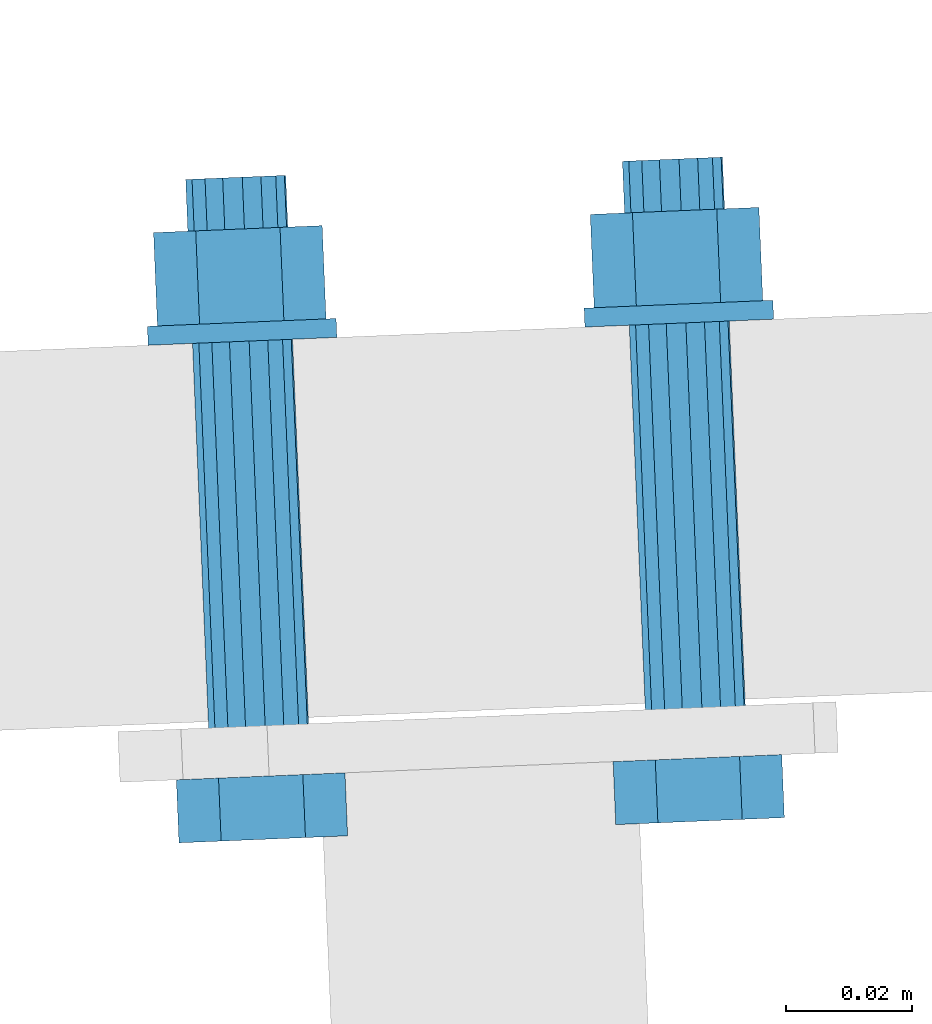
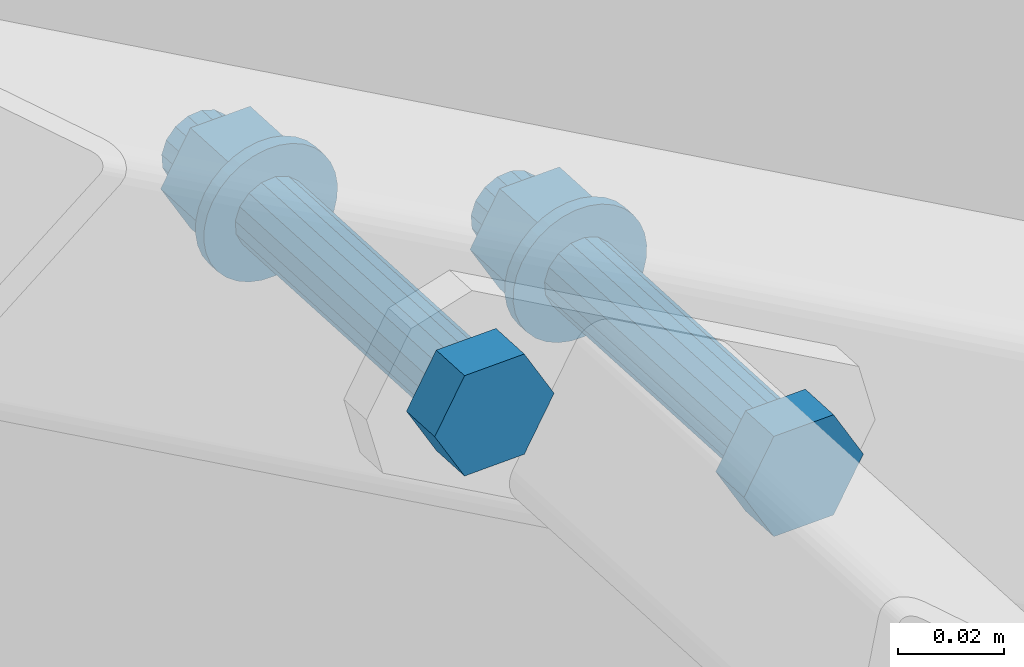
# One storey, part 132 of 288: 1 mechanical fastener.
"""IFC2X3 building model written with IfcOpenShell, lengths in millimetres."""

from ifc_helpers import new_model, entity, si_unit, converted_unit, origin_with_axes, place, context, project, spatial, faceted_brep, element, save


model = new_model("IFC2X3")

# Units and contexts
model_context = context("Model", 3, precision=1e-09, world=origin_with_axes())
ifc_project = project(units=[si_unit("LENGTHUNIT", "METRE", prefix="MILLI"), si_unit("AREAUNIT", "SQUARE_METRE"), si_unit("VOLUMEUNIT", "CUBIC_METRE"), converted_unit("PLANEANGLEUNIT", "DEGREE", entity("IfcPlaneAngleMeasure", 0.01745329), si_unit("PLANEANGLEUNIT", "RADIAN"), dimensions=[0, 0, 0, 0, 0, 0, 0])], contexts=[model_context])

# Site, building, storey
site_placement = place(None, origin_with_axes())
site = spatial("IfcSite", under=ifc_project, at=site_placement, Name="Remont ?wietlik?w nad MC w NCPP w Opolu", CompositionType="ELEMENT")
building_placement = place(site_placement, origin_with_axes())
building = spatial("IfcBuilding", under=site, at=building_placement, Name="Konstrukcja 1", CompositionType="ELEMENT")
storey_placement = place(building_placement, origin_with_axes())
storey = spatial("IfcBuildingStorey", under=building, at=storey_placement, Name="Default Storey", CompositionType="ELEMENT", Elevation=0.0)

# Mechanical fastener
mechanical_fastener_placement = place(None, origin_with_axes())
element("IfcMechanicalFastener", 1, at=mechanical_fastener_placement, inside=storey, ObjectType="-", NominalDiameter=16.0, NominalLength=95.0, context=model_context, shape_type="Brep", body=[
    faceted_brep([(675.145065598, 10264.010936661, 553.794047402), (674.728348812, 10274.002250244, 553.794046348), (681.410043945, 10274.280928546, 542.210958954), (681.82676073, 10264.289614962, 542.210960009), (694.773425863, 10274.838287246, 542.210963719), (695.190142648, 10264.846973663, 542.210964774), (701.455112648, 10275.116967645, 553.794055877), (701.871829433, 10265.125654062, 553.794056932), (694.773417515, 10274.838289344, 565.377143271), (695.1901343, 10264.84697576, 565.377144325), (681.410035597, 10274.280930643, 565.377138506), (681.826752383, 10264.28961706, 565.37713956)], [[[0, 1, 2, 3]], [[3, 2, 4, 5]], [[5, 4, 6, 7]], [[7, 6, 8, 9]], [[9, 8, 10, 11]], [[11, 10, 1, 0]], [[3, 5, 7, 9, 11, 0]], [[2, 1, 10, 8, 6, 4]]]),
    faceted_brep([(744.366931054, 10266.898031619, 513.794072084), (743.950214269, 10276.889345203, 513.79407103), (750.631909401, 10277.168023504, 502.210983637), (751.048626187, 10267.176709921, 502.210984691), (763.995291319, 10277.725382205, 502.210988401), (764.412008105, 10267.734068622, 502.210989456), (770.676978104, 10278.004062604, 513.79408056), (771.09369489, 10268.012749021, 513.794081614), (763.995282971, 10277.725384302, 525.377167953), (764.411999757, 10267.734070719, 525.377169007), (750.631901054, 10277.168025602, 525.377163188), (751.048617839, 10267.176712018, 525.377164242)], [[[0, 1, 2, 3]], [[3, 2, 4, 5]], [[5, 4, 6, 7]], [[7, 6, 8, 9]], [[9, 8, 10, 11]], [[11, 10, 1, 0]], [[3, 5, 7, 9, 11, 0]], [[2, 1, 10, 8, 6, 4]]]),
    faceted_brep([(692.138560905, 10343.788635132, 549.794046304), (695.013916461, 10274.848337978, 549.794053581), (692.95759327, 10274.762572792, 547.447226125), (690.082237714, 10343.702869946, 547.447218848), (690.160486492, 10274.645911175, 546.06664524), (687.285130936, 10343.586208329, 546.066637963), (687.048430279, 10274.5161138, 545.86249185), (684.173074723, 10343.456410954, 545.862484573), (684.095206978, 10274.392941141, 546.865846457), (681.219851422, 10343.333238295, 546.86583918), (681.750418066, 10274.295145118, 548.923957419), (678.87506251, 10343.235442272, 548.923950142), (680.371036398, 10274.237614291, 551.723495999), (677.495680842, 10343.177911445, 551.723488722), (680.16706033, 10274.229107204, 554.838257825), (677.291704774, 10343.169404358, 554.838250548), (681.169543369, 10274.270918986, 557.794048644), (678.294187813, 10343.21121614, 557.794041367), (683.22586656, 10274.356684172, 560.1408761), (680.350511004, 10343.296981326, 560.140868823), (686.022973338, 10274.473345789, 561.521456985), (683.147617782, 10343.413642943, 561.521449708), (689.135029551, 10274.603143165, 561.725610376), (686.259673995, 10343.543440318, 561.725603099), (692.088252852, 10274.726315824, 560.722255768), (689.212897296, 10343.666612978, 560.722248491), (694.433041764, 10274.824111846, 558.664144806), (691.557686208, 10343.764409, 558.664137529), (695.812423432, 10274.881642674, 555.864606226), (692.937067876, 10343.821939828, 555.864598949), (696.0163995, 10274.89014976, 552.7498444), (693.141043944, 10343.830446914, 552.749837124)], [[[0, 1, 2, 3]], [[3, 2, 4, 5]], [[5, 4, 6, 7]], [[7, 6, 8, 9]], [[9, 8, 10, 11]], [[11, 10, 12, 13]], [[13, 12, 14, 15]], [[15, 14, 16, 17]], [[17, 16, 18, 19]], [[19, 18, 20, 21]], [[21, 20, 22, 23]], [[23, 22, 24, 25]], [[25, 24, 26, 27]], [[27, 26, 28, 29]], [[29, 28, 30, 31]], [[31, 30, 1, 0]], [[2, 1, 30, 28, 26, 24, 22, 20, 18, 16, 14, 12, 10, 8, 6, 4]], [[31, 0, 3, 5, 7, 9, 11, 13, 15, 17, 19, 21, 23, 25, 27, 29]]]),
    faceted_brep([(761.360426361, 10346.675730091, 509.794070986), (764.235781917, 10277.735432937, 509.794078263), (762.179458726, 10277.649667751, 507.447250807), (759.30410317, 10346.589964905, 507.44724353), (759.382351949, 10277.533006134, 506.066669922), (756.506996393, 10346.473303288, 506.066662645), (756.270295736, 10277.403208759, 505.862516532), (753.39494018, 10346.343505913, 505.862509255), (753.317072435, 10277.2800361, 506.865871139), (750.441716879, 10346.220333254, 506.865863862), (750.972283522, 10277.182240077, 508.923982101), (748.096927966, 10346.122537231, 508.923974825), (749.592901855, 10277.124709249, 511.723520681), (746.717546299, 10346.065006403, 511.723513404), (749.388925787, 10277.116202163, 514.838282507), (746.513570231, 10346.056499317, 514.83827523), (750.391408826, 10277.158013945, 517.794073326), (747.51605327, 10346.098311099, 517.794066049), (752.447732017, 10277.243779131, 520.140900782), (749.572376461, 10346.184076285, 520.140893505), (755.244838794, 10277.360440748, 521.521481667), (752.369483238, 10346.300737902, 521.52147439), (758.356895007, 10277.490238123, 521.725635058), (755.481539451, 10346.430535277, 521.725627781), (761.310118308, 10277.613410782, 520.72228045), (758.434762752, 10346.553707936, 520.722273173), (763.654907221, 10277.711206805, 518.664169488), (760.779551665, 10346.651503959, 518.664162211), (765.034288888, 10277.768737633, 515.864630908), (762.158933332, 10346.709034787, 515.864623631), (765.238264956, 10277.777244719, 512.749869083), (762.3629094, 10346.717541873, 512.749861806)], [[[0, 1, 2, 3]], [[3, 2, 4, 5]], [[5, 4, 6, 7]], [[7, 6, 8, 9]], [[9, 8, 10, 11]], [[11, 10, 12, 13]], [[13, 12, 14, 15]], [[15, 14, 16, 17]], [[17, 16, 18, 19]], [[19, 18, 20, 21]], [[21, 20, 22, 23]], [[23, 22, 24, 25]], [[25, 24, 26, 27]], [[27, 26, 28, 29]], [[29, 28, 30, 31]], [[31, 30, 1, 0]], [[2, 1, 30, 28, 26, 24, 22, 20, 18, 16, 14, 12, 10, 8, 6, 4]], [[31, 0, 3, 5, 7, 9, 11, 13, 15, 17, 19, 21, 23, 25, 27, 29]]]),
    faceted_brep([(698.070459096, 10347.038650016, 546.294048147), (698.195474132, 10344.041255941, 546.294048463), (696.484178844, 10343.969881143, 543.903860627), (696.359163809, 10346.967275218, 543.90386031), (694.339868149, 10343.880446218, 541.893746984), (694.214853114, 10346.877840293, 541.893746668), (691.844946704, 10343.7763881, 540.340955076), (691.719931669, 10346.773782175, 540.34095476), (689.095292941, 10343.661705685, 539.305157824), (688.970277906, 10346.65909976, 539.305157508), (686.196574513, 10343.540806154, 538.826160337), (686.071559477, 10346.538200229, 538.82616002), (683.260187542, 10343.418335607, 538.922370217), (683.135172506, 10346.415729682, 538.922369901), (680.398975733, 10343.299000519, 539.590090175), (680.273960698, 10346.296394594, 539.590089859), (677.722893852, 10343.187386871, 540.803660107), (677.597878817, 10346.184780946, 540.803659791), (675.334782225, 10343.087783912, 542.5164432), (675.209767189, 10346.085177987, 542.516442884), (673.326414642, 10343.004019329, 544.662618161), (673.201399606, 10346.001413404, 544.662617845), (671.774971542, 10342.939312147, 547.15970869), (671.649956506, 10345.936706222, 547.159708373), (670.740074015, 10342.896149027, 549.911752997), (670.615058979, 10345.893543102, 549.911752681), (670.261492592, 10342.876188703, 552.812991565), (670.136477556, 10345.873582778, 552.812991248), (670.357618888, 10342.88019824, 555.751931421), (670.232603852, 10345.877592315, 555.751931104), (671.024758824, 10342.908023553, 558.615630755), (670.899743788, 10345.905417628, 558.615630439), (672.237274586, 10342.958595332, 561.294039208), (672.11225955, 10345.955989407, 561.294038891), (673.948569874, 10343.02997013, 563.684227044), (673.823554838, 10346.027364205, 563.684226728), (676.092880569, 10343.119405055, 565.694340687), (675.967865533, 10346.11679913, 565.69434037), (678.587802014, 10343.223463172, 567.247132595), (678.462786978, 10346.220857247, 567.247132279), (681.337455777, 10343.338145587, 568.282929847), (681.212440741, 10346.335539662, 568.28292953), (684.236174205, 10343.459045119, 568.761927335), (684.11115917, 10346.456439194, 568.761927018), (687.172561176, 10343.581515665, 568.665717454), (687.04754614, 10346.57890974, 568.665717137), (690.033772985, 10343.700850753, 567.997997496), (689.908757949, 10346.698244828, 567.997997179), (692.709854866, 10343.812464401, 566.784427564), (692.58483983, 10346.809858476, 566.784427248), (695.097966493, 10343.91206736, 565.071644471), (694.972951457, 10346.909461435, 565.071644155), (697.106334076, 10343.995831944, 562.92546951), (696.981319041, 10346.993226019, 562.925469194), (698.657777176, 10344.060539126, 560.428378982), (698.53276214, 10347.057933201, 560.428378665), (699.692674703, 10344.103702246, 557.676334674), (699.567659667, 10347.101096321, 557.676334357), (700.171256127, 10344.123662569, 554.775096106), (700.046241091, 10347.121056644, 554.77509579), (700.07512983, 10344.119653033, 551.83615625), (699.950114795, 10347.117047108, 551.836155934), (699.407989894, 10344.091827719, 548.972456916), (699.282974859, 10347.089221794, 548.9724566)], [[[0, 1, 2, 3]], [[3, 2, 4, 5]], [[5, 4, 6, 7]], [[7, 6, 8, 9]], [[9, 8, 10, 11]], [[11, 10, 12, 13]], [[13, 12, 14, 15]], [[15, 14, 16, 17]], [[17, 16, 18, 19]], [[19, 18, 20, 21]], [[21, 20, 22, 23]], [[23, 22, 24, 25]], [[25, 24, 26, 27]], [[27, 26, 28, 29]], [[29, 28, 30, 31]], [[31, 30, 32, 33]], [[33, 32, 34, 35]], [[35, 34, 36, 37]], [[37, 36, 38, 39]], [[39, 38, 40, 41]], [[41, 40, 42, 43]], [[43, 42, 44, 45]], [[45, 44, 46, 47]], [[47, 46, 48, 49]], [[49, 48, 50, 51]], [[51, 50, 52, 53]], [[53, 52, 54, 55]], [[55, 54, 56, 57]], [[57, 56, 58, 59]], [[59, 58, 60, 61]], [[61, 60, 62, 63]], [[63, 62, 1, 0]], [[2, 1, 62, 60, 58, 56, 54, 52, 50, 48, 46, 44, 42, 40, 38, 36, 34, 32, 30, 28, 26, 24, 22, 20, 18, 16, 14, 12, 10, 8, 6, 4]], [[63, 0, 3, 5, 7, 9, 11, 13, 15, 17, 19, 21, 23, 25, 27, 29, 31, 33, 35, 37, 39, 41, 43, 45, 47, 49, 51, 53, 55, 57, 59, 61]]]),
    faceted_brep([(767.292324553, 10349.925744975, 506.294072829), (767.417339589, 10346.9283509, 506.294073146), (765.706044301, 10346.856976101, 503.903885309), (765.581029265, 10349.854370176, 503.903884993), (763.561733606, 10346.767541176, 501.893771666), (763.43671857, 10349.764935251, 501.89377135), (761.066812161, 10346.663483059, 500.340979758), (760.941797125, 10349.660877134, 500.340979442), (758.317158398, 10346.548800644, 499.305182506), (758.192143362, 10349.546194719, 499.30518219), (755.418439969, 10346.427901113, 498.826185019), (755.293424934, 10349.425295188, 498.826184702), (752.482052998, 10346.305430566, 498.9223949), (752.357037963, 10349.302824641, 498.922394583), (749.62084119, 10346.186095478, 499.590114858), (749.495826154, 10349.183489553, 499.590114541), (746.944759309, 10346.07448183, 500.803684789), (746.819744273, 10349.071875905, 500.803684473), (744.556647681, 10345.974878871, 502.516467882), (744.431632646, 10348.972272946, 502.516467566), (742.548280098, 10345.891114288, 504.662642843), (742.423265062, 10348.888508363, 504.662642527), (740.996836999, 10345.826407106, 507.159733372), (740.871821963, 10348.823801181, 507.159733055), (739.961939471, 10345.783243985, 509.911777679), (739.836924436, 10348.78063806, 509.911777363), (739.483358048, 10345.763283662, 512.813016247), (739.358343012, 10348.760677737, 512.81301593), (739.579484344, 10345.767293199, 515.751956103), (739.454469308, 10348.764687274, 515.751955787), (740.24662428, 10345.795118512, 518.615655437), (740.121609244, 10348.792512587, 518.615655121), (741.459140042, 10345.84569029, 521.29406389), (741.334125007, 10348.843084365, 521.294063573), (743.17043533, 10345.917065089, 523.684251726), (743.045420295, 10348.914459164, 523.68425141), (745.314746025, 10346.006500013, 525.694365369), (745.18973099, 10349.003894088, 525.694365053), (747.80966747, 10346.110558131, 527.247157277), (747.684652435, 10349.107952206, 527.247156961), (750.559321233, 10346.225240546, 528.282954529), (750.434306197, 10349.222634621, 528.282954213), (753.458039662, 10346.346140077, 528.761952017), (753.333024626, 10349.343534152, 528.7619517), (756.394426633, 10346.468610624, 528.665742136), (756.269411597, 10349.466004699, 528.665741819), (759.255638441, 10346.587945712, 527.998022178), (759.130623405, 10349.585339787, 527.998021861), (761.931720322, 10346.69955936, 526.784452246), (761.806705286, 10349.696953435, 526.78445193), (764.319831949, 10346.799162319, 525.071669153), (764.194816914, 10349.796556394, 525.071668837), (766.328199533, 10346.882926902, 522.925494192), (766.203184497, 10349.880320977, 522.925493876), (767.879642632, 10346.947634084, 520.428403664), (767.754627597, 10349.945028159, 520.428403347), (768.91454016, 10346.990797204, 517.676359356), (768.789525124, 10349.988191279, 517.67635904), (769.393121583, 10347.010757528, 514.775120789), (769.268106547, 10350.008151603, 514.775120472), (769.296995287, 10347.006747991, 511.836180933), (769.171980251, 10350.004142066, 511.836180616), (768.629855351, 10346.978922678, 508.972481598), (768.504840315, 10349.976316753, 508.972481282)], [[[0, 1, 2, 3]], [[3, 2, 4, 5]], [[5, 4, 6, 7]], [[7, 6, 8, 9]], [[9, 8, 10, 11]], [[11, 10, 12, 13]], [[13, 12, 14, 15]], [[15, 14, 16, 17]], [[17, 16, 18, 19]], [[19, 18, 20, 21]], [[21, 20, 22, 23]], [[23, 22, 24, 25]], [[25, 24, 26, 27]], [[27, 26, 28, 29]], [[29, 28, 30, 31]], [[31, 30, 32, 33]], [[33, 32, 34, 35]], [[35, 34, 36, 37]], [[37, 36, 38, 39]], [[39, 38, 40, 41]], [[41, 40, 42, 43]], [[43, 42, 44, 45]], [[45, 44, 46, 47]], [[47, 46, 48, 49]], [[49, 48, 50, 51]], [[51, 50, 52, 53]], [[53, 52, 54, 55]], [[55, 54, 56, 57]], [[57, 56, 58, 59]], [[59, 58, 60, 61]], [[61, 60, 62, 63]], [[63, 62, 1, 0]], [[2, 1, 62, 60, 58, 56, 54, 52, 50, 48, 46, 44, 42, 40, 38, 36, 34, 32, 30, 28, 26, 24, 22, 20, 18, 16, 14, 12, 10, 8, 6, 4]], [[63, 0, 3, 5, 7, 9, 11, 13, 15, 17, 19, 21, 23, 25, 27, 29, 31, 33, 35, 37, 39, 41, 43, 45, 47, 49, 51, 53, 55, 57, 59, 61]]]),
    faceted_brep([(671.727977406, 10345.939961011, 553.794038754), (671.111236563, 10360.727105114, 553.794037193), (677.792931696, 10361.005783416, 542.2109498), (678.409672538, 10346.218639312, 542.210951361), (691.156313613, 10361.563142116, 542.210954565), (691.773054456, 10346.775998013, 542.210956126), (697.838000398, 10361.841822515, 553.794046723), (698.454741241, 10347.054678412, 553.794048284), (691.156305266, 10361.563144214, 565.377134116), (691.773046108, 10346.77600011, 565.377135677), (677.792923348, 10361.005785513, 565.377129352), (678.409664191, 10346.21864141, 565.377130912)], [[[0, 1, 2, 3]], [[3, 2, 4, 5]], [[5, 4, 6, 7]], [[7, 6, 8, 9]], [[9, 8, 10, 11]], [[11, 10, 1, 0]], [[3, 5, 7, 9, 11, 0]], [[2, 1, 10, 8, 6, 4]]]),
    faceted_brep([(740.949842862, 10348.827055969, 513.794063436), (740.333102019, 10363.614200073, 513.794061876), (747.014797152, 10363.892878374, 502.210974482), (747.631537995, 10349.105734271, 502.210976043), (760.37817907, 10364.450237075, 502.210979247), (760.994919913, 10349.663092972, 502.210980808), (767.059865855, 10364.728917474, 513.794071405), (767.676606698, 10349.941773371, 513.794072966), (760.378170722, 10364.450239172, 525.377158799), (760.994911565, 10349.663095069, 525.377160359), (747.014788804, 10363.892880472, 525.377154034), (747.631529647, 10349.105736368, 525.377155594)], [[[0, 1, 2, 3]], [[3, 2, 4, 5]], [[5, 4, 6, 7]], [[7, 6, 8, 9]], [[9, 8, 10, 11]], [[11, 10, 1, 0]], [[3, 5, 7, 9, 11, 0]], [[2, 1, 10, 8, 6, 4]]]),
    faceted_brep([(691.055107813, 10369.765797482, 549.794043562), (691.396805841, 10361.573153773, 549.794044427), (689.34048265, 10361.487388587, 547.447216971), (688.998784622, 10369.680032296, 547.447216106), (686.543375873, 10361.37072697, 546.066636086), (686.201677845, 10369.563370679, 546.066635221), (683.43131966, 10361.240929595, 545.862482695), (683.089621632, 10369.433573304, 545.862481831), (680.478096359, 10361.117756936, 546.865837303), (680.136398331, 10369.310400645, 546.865836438), (678.133307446, 10361.019960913, 548.923948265), (677.791609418, 10369.212604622, 548.9239474), (676.753925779, 10360.962430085, 551.723486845), (676.41222775, 10369.155073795, 551.72348598), (676.549949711, 10360.953922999, 554.83824867), (676.208251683, 10369.146566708, 554.838247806), (677.55243275, 10360.995734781, 557.79403949), (677.210734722, 10369.18837849, 557.794038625), (679.608755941, 10361.081499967, 560.140866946), (679.267057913, 10369.274143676, 560.140866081), (682.405862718, 10361.198161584, 561.521447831), (682.06416469, 10369.390805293, 561.521446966), (685.517918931, 10361.327958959, 561.725601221), (685.176220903, 10369.520602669, 561.725600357), (688.471142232, 10361.451131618, 560.722246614), (688.129444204, 10369.643775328, 560.722245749), (690.815931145, 10361.548927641, 558.664135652), (690.474233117, 10369.74157135, 558.664134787), (692.195312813, 10361.606458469, 555.864597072), (691.853614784, 10369.799102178, 555.864596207), (692.39928888, 10361.614965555, 552.749835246), (692.057590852, 10369.807609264, 552.749834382)], [[[0, 1, 2, 3]], [[3, 2, 4, 5]], [[5, 4, 6, 7]], [[7, 6, 8, 9]], [[9, 8, 10, 11]], [[11, 10, 12, 13]], [[13, 12, 14, 15]], [[15, 14, 16, 17]], [[17, 16, 18, 19]], [[19, 18, 20, 21]], [[21, 20, 22, 23]], [[23, 22, 24, 25]], [[25, 24, 26, 27]], [[27, 26, 28, 29]], [[29, 28, 30, 31]], [[31, 30, 1, 0]], [[2, 1, 30, 28, 26, 24, 22, 20, 18, 16, 14, 12, 10, 8, 6, 4]], [[31, 0, 3, 5, 7, 9, 11, 13, 15, 17, 19, 21, 23, 25, 27, 29]]]),
    faceted_brep([(760.276973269, 10372.652892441, 509.794068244), (760.618671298, 10364.460248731, 509.794069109), (758.562348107, 10364.374483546, 507.447241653), (758.220650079, 10372.567127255, 507.447240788), (755.765241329, 10364.257821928, 506.066660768), (755.423543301, 10372.450465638, 506.066659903), (752.653185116, 10364.128024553, 505.862507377), (752.311487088, 10372.320668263, 505.862506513), (749.699961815, 10364.004851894, 506.865861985), (749.358263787, 10372.197495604, 506.86586112), (747.355172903, 10363.907055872, 508.923972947), (747.013474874, 10372.099699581, 508.923972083), (745.975791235, 10363.849525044, 511.723511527), (745.634093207, 10372.042168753, 511.723510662), (745.771815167, 10363.841017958, 514.838273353), (745.430117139, 10372.033661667, 514.838272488), (746.774298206, 10363.88282974, 517.794064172), (746.432600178, 10372.075473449, 517.794063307), (748.830621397, 10363.968594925, 520.140891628), (748.488923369, 10372.161238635, 520.140890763), (751.627728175, 10364.085256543, 521.521472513), (751.286030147, 10372.277900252, 521.521471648), (754.739784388, 10364.215053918, 521.725625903), (754.39808636, 10372.407697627, 521.725625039), (757.693007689, 10364.338226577, 520.722271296), (757.351309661, 10372.530870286, 520.722270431), (760.037796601, 10364.436022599, 518.664160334), (759.696098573, 10372.628666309, 518.664159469), (761.417178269, 10364.493553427, 515.864621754), (761.075480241, 10372.686197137, 515.864620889), (761.621154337, 10364.502060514, 512.749859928), (761.279456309, 10372.694704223, 512.749859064)], [[[0, 1, 2, 3]], [[3, 2, 4, 5]], [[5, 4, 6, 7]], [[7, 6, 8, 9]], [[9, 8, 10, 11]], [[11, 10, 12, 13]], [[13, 12, 14, 15]], [[15, 14, 16, 17]], [[17, 16, 18, 19]], [[19, 18, 20, 21]], [[21, 20, 22, 23]], [[23, 22, 24, 25]], [[25, 24, 26, 27]], [[27, 26, 28, 29]], [[29, 28, 30, 31]], [[31, 30, 1, 0]], [[2, 1, 30, 28, 26, 24, 22, 20, 18, 16, 14, 12, 10, 8, 6, 4]], [[31, 0, 3, 5, 7, 9, 11, 13, 15, 17, 19, 21, 23, 25, 27, 29]]]),
])

save(model, "model.ifc")
